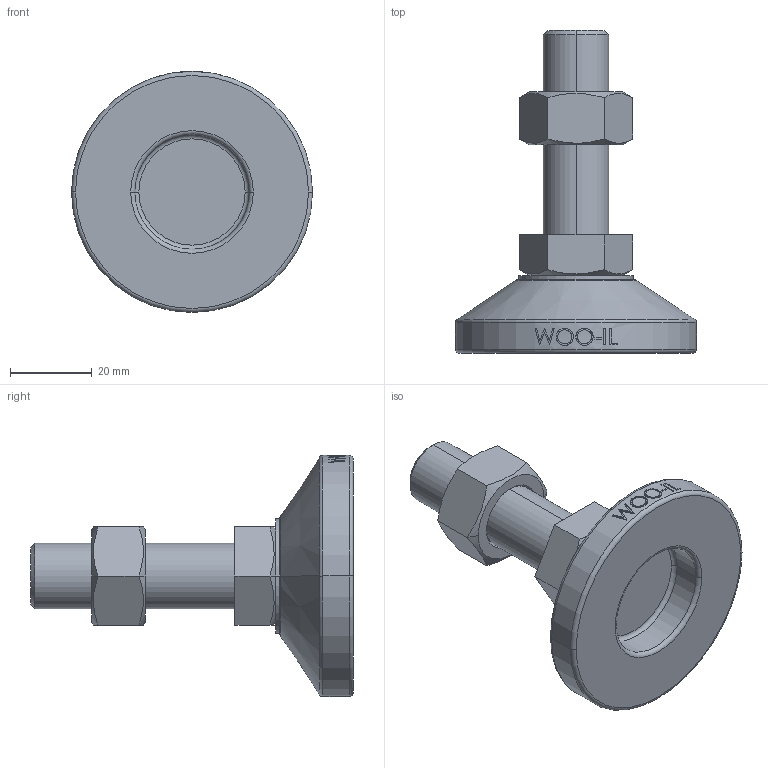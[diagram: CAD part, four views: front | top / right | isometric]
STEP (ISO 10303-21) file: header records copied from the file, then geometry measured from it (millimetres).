
FILE_DESCRIPTION (( 'STEP AP214' ), '1' );
FILE_NAME ('MF59-M16-50.step', '2021-02-03T08:18:32', ( '' ), ( '' ), 'SwSTEP 2.0', 'SolidWorks 2019', '' );
FILE_SCHEMA (( 'AUTOMOTIVE_DESIGN' ));
Length unit declared in the file: millimetre
Products named in the file (2): MF59-M16-50
Bounding box: 59 x 79 x 59 mm (x, y, z)
Volume: 51747.4 mm3; surface area: 14523.2 mm2
Topology: 3 solids, 3 shells, 106 faces, 243 edges, 154 vertices
Faces by surface type: plane 48, cylinder 18, bspline 16, cone 14, torus 10
Entity records: 4448 total; most frequent: CARTESIAN_POINT 2105, ORIENTED_EDGE 486, DIRECTION 439, EDGE_CURVE 243, AXIS2_PLACEMENT_3D 170, VERTEX_POINT 154, EDGE_LOOP 119, FACE_OUTER_BOUND 106
